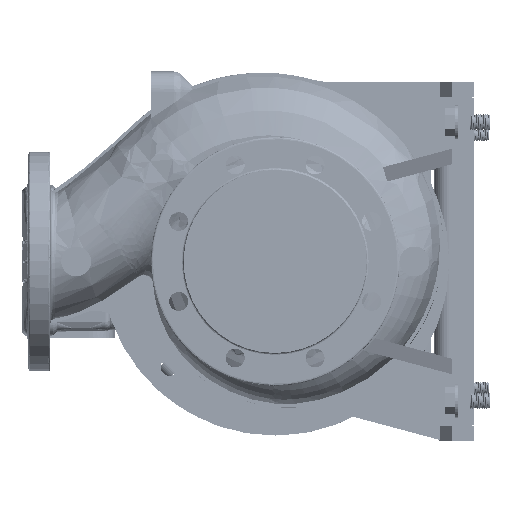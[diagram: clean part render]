
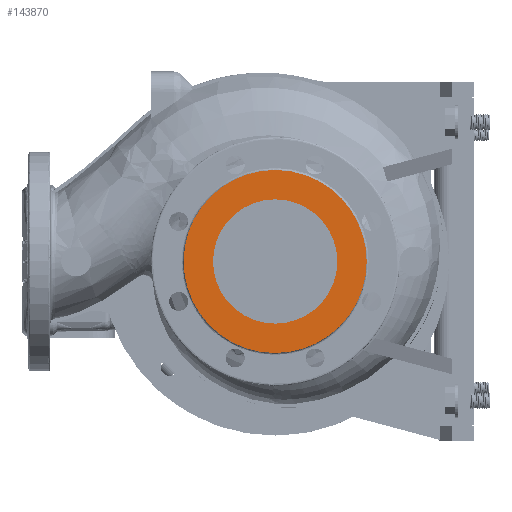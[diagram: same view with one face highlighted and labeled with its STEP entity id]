
A CAD part, left-side view. The second image highlights one B-rep face of the part: STEP entity #143870.
In plain terms, the highlighted planar face has unit normal (-1, 0, 0).
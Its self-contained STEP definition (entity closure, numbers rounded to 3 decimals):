
#5369 = EDGE_CURVE ( 'NONE', #239419, #182647, #154469, .T. ) ;
#6927 = AXIS2_PLACEMENT_3D ( 'NONE', #207070, #128343, #187718 ) ;
#7050 = CARTESIAN_POINT ( 'NONE',  ( -125., 92., 0. ) ) ;
#7723 = CARTESIAN_POINT ( 'NONE',  ( -125., 74.163, 55.003 ) ) ;
#8411 = B_SPLINE_CURVE_WITH_KNOTS ( 'NONE', 3,
 ( #242857, #124087, #64805, #143498, #63540, #201559, #24807, #104722, #90450, #249187, #49293, #68612, #207901, #86668, #131705, #228545, #209190, #33689, #226017, #108533, #210437, #51838, #185996, #32439 ),
 .UNSPECIFIED., .F., .F.,
 ( 4, 1, 1, 1, 1, 1, 1, 1, 1, 1, 1, 1, 1, 1, 1, 1, 1, 1, 1, 1, 1, 4 ),
 ( 0., 0.018, 0.036, 0.054, 0.072, 0.091, 0.109, 0.127, 0.145, 0.163, 0.181, 0.19, 0.199, 0.208, 0.217, 0.231, 0.244, 0.254, 0.263, 0.272, 0.281, 0.29 ),
 .UNSPECIFIED. ) ;
#8806 = DIRECTION ( 'NONE',  ( -1., 0., 0. ) ) ;
#10992 = DIRECTION ( 'NONE',  ( 0., 0., 1. ) ) ;
#24560 = CARTESIAN_POINT ( 'NONE',  ( -125., -65.473, 65.473 ) ) ;
#24807 = CARTESIAN_POINT ( 'NONE',  ( -125., -51.442, -76.988 ) ) ;
#25812 = CARTESIAN_POINT ( 'NONE',  ( -125., -51.442, 76.988 ) ) ;
#28700 = EDGE_CURVE ( 'NONE', #51205, #59508, #8411, .T. ) ;
#32163 = CIRCLE ( 'NONE', #151621, 62.5 ) ;
#32439 = CARTESIAN_POINT ( 'NONE',  ( -125., 92., 0. ) ) ;
#33689 = CARTESIAN_POINT ( 'NONE',  ( -125., 80.624, -44.798 ) ) ;
#43964 = CARTESIAN_POINT ( 'NONE',  ( -125., 0.001, 92.593 ) ) ;
#45238 = CARTESIAN_POINT ( 'NONE',  ( -125., 85.133, 35.264 ) ) ;
#46501 = CARTESIAN_POINT ( 'NONE',  ( -125., 90.377, 17.977 ) ) ;
#49293 = CARTESIAN_POINT ( 'NONE',  ( -125., 18.062, -90.815 ) ) ;
#51205 = VERTEX_POINT ( 'NONE', #54374 ) ;
#51838 = CARTESIAN_POINT ( 'NONE',  ( -125., 91.704, -9.033 ) ) ;
#54374 = CARTESIAN_POINT ( 'NONE',  ( -125., -92., 0. ) ) ;
#59508 = VERTEX_POINT ( 'NONE', #7050 ) ;
#63540 = CARTESIAN_POINT ( 'NONE',  ( -125., -76.988, -51.442 ) ) ;
#64805 = CARTESIAN_POINT ( 'NONE',  ( -125., -90.814, -18.064 ) ) ;
#68612 = CARTESIAN_POINT ( 'NONE',  ( -125., 32.548, -86.419 ) ) ;
#69372 = EDGE_CURVE ( 'NONE', #182647, #239419, #32163, .T. ) ;
#71616 = DIRECTION ( 'NONE',  ( -1., 0., 0. ) ) ;
#81345 = CARTESIAN_POINT ( 'NONE',  ( -125., 88.18, 26.749 ) ) ;
#85154 = CARTESIAN_POINT ( 'NONE',  ( -125., 43.438, 81.267 ) ) ;
#86668 = CARTESIAN_POINT ( 'NONE',  ( -125., 51.195, -76.618 ) ) ;
#89922 = B_SPLINE_CURVE_WITH_KNOTS ( 'NONE', 3,
 ( #241329, #180655, #240034, #46501, #81345, #45238, #145771, #7723, #220680, #201304, #143247, #85154, #160035, #123834, #43964, #200033, #203855, #25812, #24560, #105745, #184474, #181913, #224494, #104466 ),
 .UNSPECIFIED., .F., .F.,
 ( 4, 1, 1, 1, 1, 1, 1, 1, 1, 1, 1, 1, 1, 1, 1, 1, 1, 1, 1, 1, 1, 4 ),
 ( 0., 0.009, 0.018, 0.027, 0.036, 0.045, 0.059, 0.073, 0.082, 0.091, 0.1, 0.109, 0.127, 0.145, 0.163, 0.181, 0.199, 0.218, 0.236, 0.254, 0.272, 0.29 ),
 .UNSPECIFIED. ) ;
#90450 = CARTESIAN_POINT ( 'NONE',  ( -125., -18.064, -90.814 ) ) ;
#104466 = CARTESIAN_POINT ( 'NONE',  ( -125., -92., 0. ) ) ;
#104722 = CARTESIAN_POINT ( 'NONE',  ( -125., -35.434, -85.545 ) ) ;
#105745 = CARTESIAN_POINT ( 'NONE',  ( -125., -76.988, 51.442 ) ) ;
#108533 = CARTESIAN_POINT ( 'NONE',  ( -125., 88.18, -26.749 ) ) ;
#109373 = CARTESIAN_POINT ( 'NONE',  ( -125., 0., 0. ) ) ;
#111960 = EDGE_CURVE ( 'NONE', #59508, #51205, #89922, .T. ) ;
#123349 = EDGE_LOOP ( 'NONE', ( #221307, #236981 ) ) ;
#123834 = CARTESIAN_POINT ( 'NONE',  ( -125., 18.062, 90.815 ) ) ;
#124087 = CARTESIAN_POINT ( 'NONE',  ( -125., -92., -6.021 ) ) ;
#128343 = DIRECTION ( 'NONE',  ( 1., 0., 0. ) ) ;
#129605 = FACE_OUTER_BOUND ( 'NONE', #132469, .T. ) ;
#131705 = CARTESIAN_POINT ( 'NONE',  ( -125., 58.458, -71.231 ) ) ;
#132469 = EDGE_LOOP ( 'NONE', ( #252794, #179849 ) ) ;
#143247 = CARTESIAN_POINT ( 'NONE',  ( -125., 51.195, 76.618 ) ) ;
#143498 = CARTESIAN_POINT ( 'NONE',  ( -125., -85.545, -35.434 ) ) ;
#143870 = ADVANCED_FACE ( 'NONE', ( #168352, #129605 ), #245821, .F. ) ;
#145771 = CARTESIAN_POINT ( 'NONE',  ( -125., 80.624, 44.798 ) ) ;
#151621 = AXIS2_PLACEMENT_3D ( 'NONE', #109373, #8806, #228102 ) ;
#154469 = CIRCLE ( 'NONE', #253419, 62.5 ) ;
#160035 = CARTESIAN_POINT ( 'NONE',  ( -125., 32.548, 86.419 ) ) ;
#168352 = FACE_BOUND ( 'NONE', #123349, .T. ) ;
#179849 = ORIENTED_EDGE ( 'NONE', *, *, #28700, .F. ) ;
#180408 = CARTESIAN_POINT ( 'NONE',  ( -125., 0., -62.5 ) ) ;
#180655 = CARTESIAN_POINT ( 'NONE',  ( -125., 92., 3.009 ) ) ;
#181913 = CARTESIAN_POINT ( 'NONE',  ( -125., -90.814, 18.064 ) ) ;
#182647 = VERTEX_POINT ( 'NONE', #195463 ) ;
#184474 = CARTESIAN_POINT ( 'NONE',  ( -125., -85.545, 35.434 ) ) ;
#185199 = CARTESIAN_POINT ( 'NONE',  ( -125., 0., 0. ) ) ;
#185996 = CARTESIAN_POINT ( 'NONE',  ( -125., 92., -3.009 ) ) ;
#187718 = DIRECTION ( 'NONE',  ( 0., 0., -1. ) ) ;
#195463 = CARTESIAN_POINT ( 'NONE',  ( -125., 0., 62.5 ) ) ;
#200033 = CARTESIAN_POINT ( 'NONE',  ( -125., -18.064, 90.814 ) ) ;
#201304 = CARTESIAN_POINT ( 'NONE',  ( -125., 58.458, 71.231 ) ) ;
#201559 = CARTESIAN_POINT ( 'NONE',  ( -125., -65.473, -65.473 ) ) ;
#203855 = CARTESIAN_POINT ( 'NONE',  ( -125., -35.434, 85.545 ) ) ;
#207070 = CARTESIAN_POINT ( 'NONE',  ( -125., -93.104, 93.203 ) ) ;
#207901 = CARTESIAN_POINT ( 'NONE',  ( -125., 43.438, -81.267 ) ) ;
#209190 = CARTESIAN_POINT ( 'NONE',  ( -125., 74.163, -55.003 ) ) ;
#210437 = CARTESIAN_POINT ( 'NONE',  ( -125., 90.377, -17.977 ) ) ;
#220680 = CARTESIAN_POINT ( 'NONE',  ( -125., 66.273, 64.149 ) ) ;
#221307 = ORIENTED_EDGE ( 'NONE', *, *, #69372, .F. ) ;
#224494 = CARTESIAN_POINT ( 'NONE',  ( -125., -92., 6.021 ) ) ;
#226017 = CARTESIAN_POINT ( 'NONE',  ( -125., 85.133, -35.264 ) ) ;
#228102 = DIRECTION ( 'NONE',  ( 0., 0., 1. ) ) ;
#228545 = CARTESIAN_POINT ( 'NONE',  ( -125., 66.273, -64.149 ) ) ;
#236981 = ORIENTED_EDGE ( 'NONE', *, *, #5369, .F. ) ;
#239419 = VERTEX_POINT ( 'NONE', #180408 ) ;
#240034 = CARTESIAN_POINT ( 'NONE',  ( -125., 91.704, 9.033 ) ) ;
#241329 = CARTESIAN_POINT ( 'NONE',  ( -125., 92., 0. ) ) ;
#242857 = CARTESIAN_POINT ( 'NONE',  ( -125., -92., 0. ) ) ;
#245821 = PLANE ( 'NONE',  #6927 ) ;
#249187 = CARTESIAN_POINT ( 'NONE',  ( -125., 0.001, -92.593 ) ) ;
#252794 = ORIENTED_EDGE ( 'NONE', *, *, #111960, .F. ) ;
#253419 = AXIS2_PLACEMENT_3D ( 'NONE', #185199, #71616, #10992 ) ;
